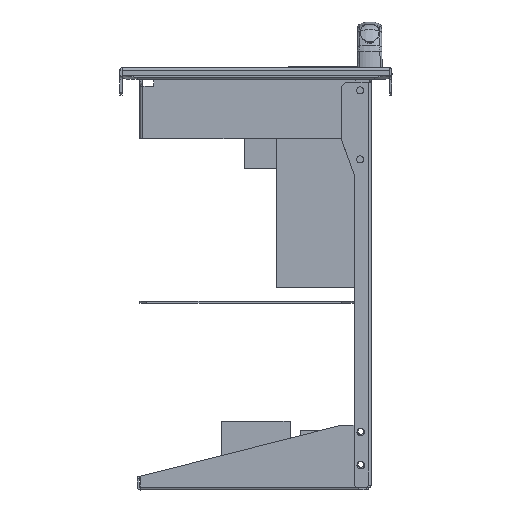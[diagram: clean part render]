
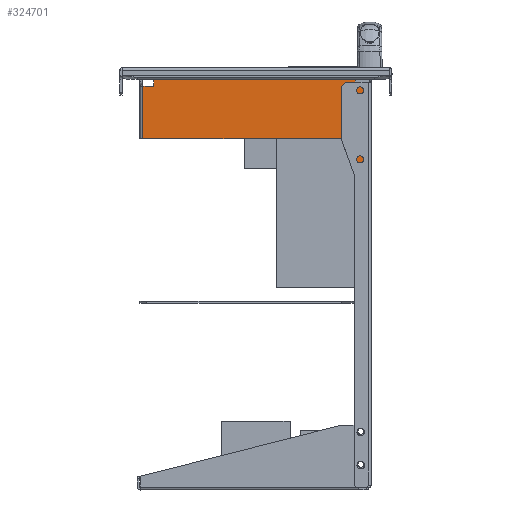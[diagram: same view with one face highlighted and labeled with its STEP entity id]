
A CAD part, left-side view. The second image highlights one B-rep face of the part: STEP entity #324701.
In plain terms, the highlighted planar face has unit normal (-1, 0, 0).
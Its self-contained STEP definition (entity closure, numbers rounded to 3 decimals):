
#314456=CARTESIAN_POINT(' ',(-68.25,24.,-145.857));
#314457=VERTEX_POINT(' ',#314456);
#314471=CARTESIAN_POINT(' ',(-68.25,24.,-2.1));
#314476=DIRECTION(' ',(0.,0.,-1.));
#314481=VECTOR(' ',#314476,1.);
#314486=LINE('',#314471,#314481);
#314491=CARTESIAN_POINT(' ',(-68.25,24.,-2.1));
#314492=VERTEX_POINT(' ',#314491);
#314496=EDGE_CURVE(' ',#314492,#314457,#314486,.T.);
#321996=CARTESIAN_POINT(' ',(-68.25,24.,-2.1));
#322001=DIRECTION(' ',(0.,-1.,0.));
#322006=VECTOR(' ',#322001,1.);
#322011=LINE('',#321996,#322006);
#322016=CARTESIAN_POINT(' ',(-68.25,-14.,-2.1));
#322017=VERTEX_POINT(' ',#322016);
#322021=EDGE_CURVE(' ',#314492,#322017,#322011,.T.);
#323416=CARTESIAN_POINT(' ',(-68.25,-14.,-10.));
#323421=DIRECTION(' ',(0.,0.,1.));
#323426=VECTOR(' ',#323421,1.);
#323431=LINE('',#323416,#323426);
#323436=CARTESIAN_POINT(' ',(-68.25,-14.,-10.));
#323437=VERTEX_POINT(' ',#323436);
#323441=EDGE_CURVE(' ',#323437,#322017,#323431,.T.);
#324306=CARTESIAN_POINT(' ',(-68.25,45.,-153.5));
#324307=VERTEX_POINT(' ',#324306);
#324321=CARTESIAN_POINT(' ',(-68.25,45.,-153.5));
#324326=DIRECTION(' ',(0.,-0.94,0.342));
#324331=VECTOR(' ',#324326,1.);
#324336=LINE('',#324321,#324331);
#324341=EDGE_CURVE(' ',#324307,#314457,#324336,.T.);
#324371=DIRECTION(' ',(-1.,-0.,0.));
#324376=CARTESIAN_POINT(' ',(-68.25,-24.,-2.1));
#324381=DIRECTION(' ',(0.,1.,0.));
#324386=AXIS2_PLACEMENT_3D(' ',#324376,#324371,#324381);
#324391=PLANE('NONE',#324386);
#324396=CARTESIAN_POINT(' ',(-68.25,-22.,-156.));
#324401=DIRECTION(' ',(0.,-0.707,0.707));
#324406=VECTOR(' ',#324401,1.);
#324411=LINE('',#324396,#324406);
#324416=CARTESIAN_POINT(' ',(-68.25,-22.,-156.));
#324417=VERTEX_POINT(' ',#324416);
#324421=CARTESIAN_POINT(' ',(-68.25,-24.,-154.));
#324422=VERTEX_POINT(' ',#324421);
#324426=EDGE_CURVE(' ',#324417,#324422,#324411,.T.);
#324431=ORIENTED_EDGE(' ',*,*,#324426,.T.);
#324436=CARTESIAN_POINT(' ',(-68.25,-24.,-154.));
#324441=DIRECTION(' ',(0.,0.,1.));
#324446=VECTOR(' ',#324441,1.);
#324451=LINE('',#324436,#324446);
#324456=CARTESIAN_POINT(' ',(-68.25,-24.,-10.));
#324457=VERTEX_POINT(' ',#324456);
#324461=EDGE_CURVE(' ',#324422,#324457,#324451,.T.);
#324466=ORIENTED_EDGE(' ',*,*,#324461,.T.);
#324471=CARTESIAN_POINT(' ',(-68.25,-24.,-10.));
#324476=DIRECTION(' ',(0.,1.,0.));
#324481=VECTOR(' ',#324476,1.);
#324486=LINE('',#324471,#324481);
#324491=EDGE_CURVE(' ',#324457,#323437,#324486,.T.);
#324496=ORIENTED_EDGE(' ',*,*,#324491,.T.);
#324501=ORIENTED_EDGE(' ',*,*,#323441,.T.);
#324506=ORIENTED_EDGE(' ',*,*,#322021,.F.);
#324511=ORIENTED_EDGE(' ',*,*,#314496,.T.);
#324516=ORIENTED_EDGE(' ',*,*,#324341,.F.);
#324521=CARTESIAN_POINT(' ',(-68.25,45.,-165.));
#324526=DIRECTION(' ',(0.,0.,1.));
#324531=VECTOR(' ',#324526,1.);
#324536=LINE('',#324521,#324531);
#324541=CARTESIAN_POINT(' ',(-68.25,45.,-165.));
#324542=VERTEX_POINT(' ',#324541);
#324546=EDGE_CURVE(' ',#324542,#324307,#324536,.T.);
#324551=ORIENTED_EDGE(' ',*,*,#324546,.F.);
#324556=CARTESIAN_POINT(' ',(-68.25,45.,-165.));
#324561=DIRECTION(' ',(0.,-1.,0.));
#324566=VECTOR(' ',#324561,1.);
#324571=LINE('',#324556,#324566);
#324576=CARTESIAN_POINT(' ',(-68.25,-15.,-165.));
#324577=VERTEX_POINT(' ',#324576);
#324581=EDGE_CURVE(' ',#324542,#324577,#324571,.T.);
#324586=ORIENTED_EDGE(' ',*,*,#324581,.T.);
#324591=CARTESIAN_POINT(' ',(-68.25,-15.,-165.));
#324596=DIRECTION(' ',(0.,-0.707,0.707));
#324601=VECTOR(' ',#324596,1.);
#324606=LINE('',#324591,#324601);
#324611=CARTESIAN_POINT(' ',(-68.25,-17.,-163.));
#324612=VERTEX_POINT(' ',#324611);
#324616=EDGE_CURVE(' ',#324577,#324612,#324606,.T.);
#324621=ORIENTED_EDGE(' ',*,*,#324616,.T.);
#324626=CARTESIAN_POINT(' ',(-68.25,-17.,-163.));
#324631=DIRECTION(' ',(0.,0.,1.));
#324636=VECTOR(' ',#324631,1.);
#324641=LINE('',#324626,#324636);
#324646=CARTESIAN_POINT(' ',(-68.25,-17.,-156.));
#324647=VERTEX_POINT(' ',#324646);
#324651=EDGE_CURVE(' ',#324612,#324647,#324641,.T.);
#324656=ORIENTED_EDGE(' ',*,*,#324651,.T.);
#324661=CARTESIAN_POINT(' ',(-68.25,-17.,-156.));
#324666=DIRECTION(' ',(0.,-1.,0.));
#324671=VECTOR(' ',#324666,1.);
#324676=LINE('',#324661,#324671);
#324681=EDGE_CURVE(' ',#324647,#324417,#324676,.T.);
#324686=ORIENTED_EDGE(' ',*,*,#324681,.T.);
#324691=EDGE_LOOP(' ',(#324431,#324466,#324496,#324501,#324506,#324511,#324516,#324551,#324586,#324621,#324656,#324686));
#324696=FACE_OUTER_BOUND(' ',#324691,.T.);
#324701=ADVANCED_FACE('N',(#324696),#324391,.T.);
